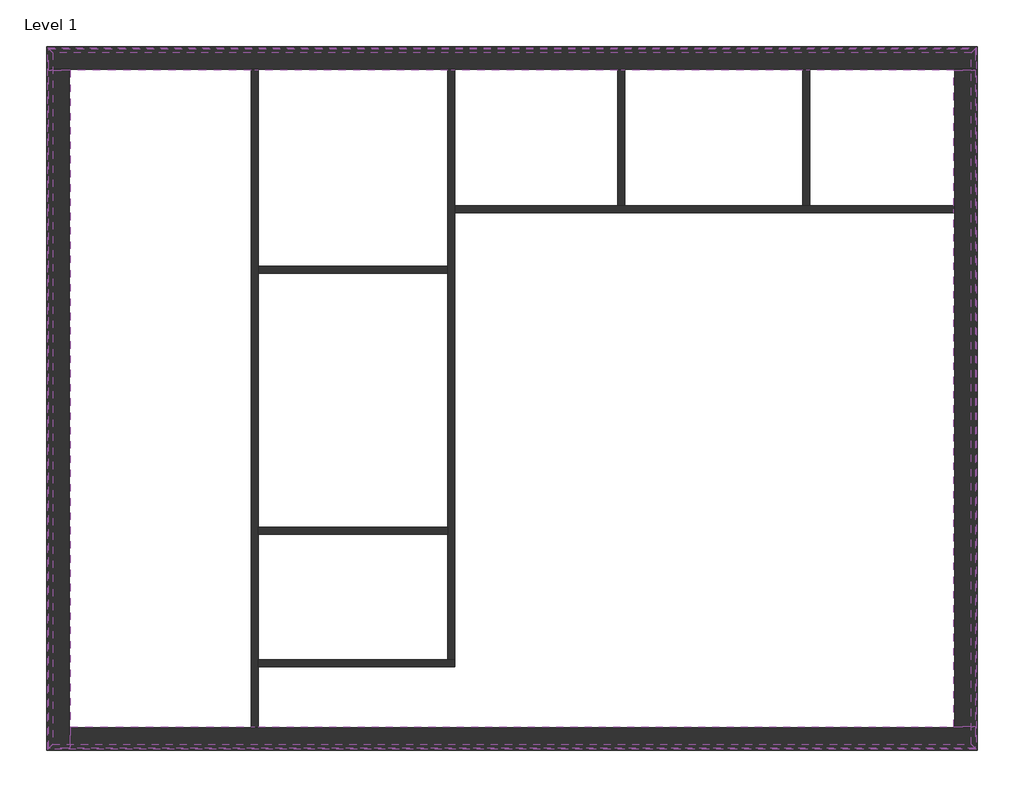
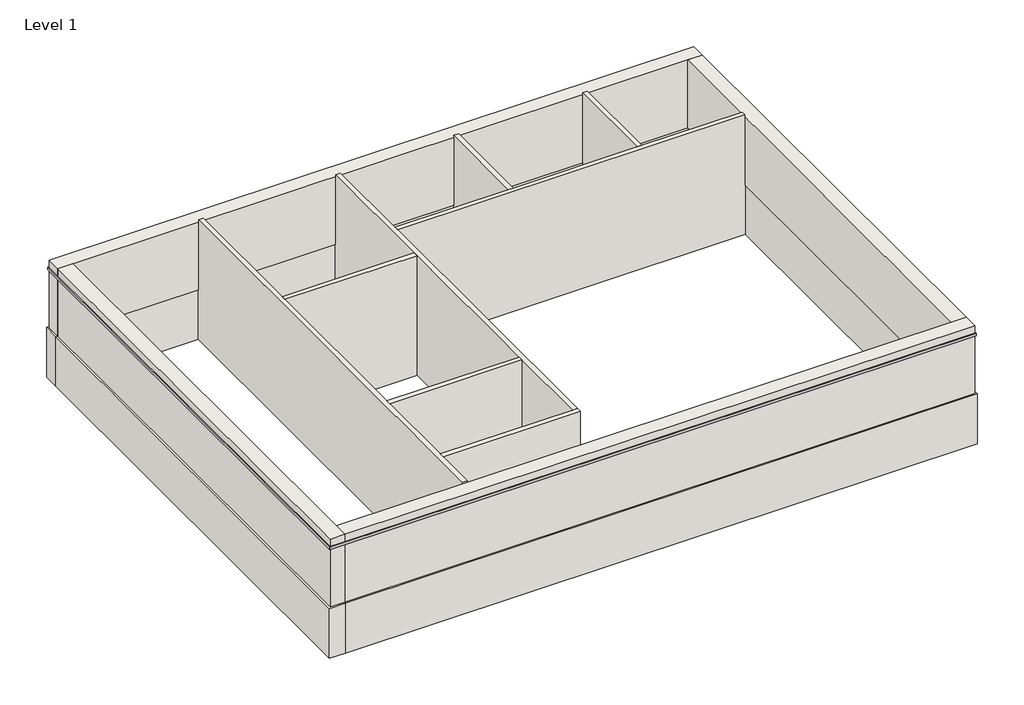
# One storey: 16 walls, 4 proxies.
"""IFC4 building model written with IfcOpenShell, lengths in millimetres."""

from ifc_helpers import new_model, si_unit, frame, origin, origin_with_axes, place, context, project, spatial, polyline, outline, extrude, faceted_brep, element, save

model = new_model("IFC4")

# Units and contexts
model_context = context("Model", 3, world=origin())
ifc_project = project(units=[si_unit("LENGTHUNIT", "METRE", prefix="MILLI")], contexts=[model_context])

# Site, building, storey
site = spatial("IfcSite", under=ifc_project)
building = spatial("IfcBuilding", under=site)
storey = spatial("IfcBuildingStorey", under=building, Name="Level 1", Elevation=0.0)

# Proxies
placement = place(None, origin())
element("IfcBuildingElementProxy", 1, Name="Reveals", at=placement, inside=storey, context=model_context, shape_type="SweptSolid", body=[
    extrude(outline(polyline([(-17378.8100037, 5434.2363466), (-17481.3100037, 5536.7363466), (1223.6899963, 5536.7363466), (1121.1899963, 5434.2363466), (-17378.8100037, 5434.2363466)])), frame((0.0, 0.0, 3300.0), z_axis=(0.0, 0.0, 1.0), x_axis=(1.0, 0.0, 0.0)), (0.0, 0.0, 1.0), 75.0),
])
element("IfcBuildingElementProxy", 2, Name="Reveals", at=placement, inside=storey, context=model_context, shape_type="SweptSolid", body=[
    extrude(outline(polyline([(-17378.8100037, -8493.7636534), (-17481.3100037, -8596.2636534), (-17481.3100037, 5536.7363466), (-17378.8100037, 5434.2363466), (-17378.8100037, -8493.7636534)])), frame((0.0, 0.0, 3300.0), z_axis=(0.0, 0.0, 1.0), x_axis=(1.0, 0.0, 0.0)), (0.0, 0.0, 1.0), 75.0),
])
element("IfcBuildingElementProxy", 3, Name="Reveals", at=placement, inside=storey, context=model_context, shape_type="SweptSolid", body=[
    extrude(outline(polyline([(1121.1899963, -8493.7636534), (1223.6899963, -8596.2636534), (-17481.3100037, -8596.2636534), (-17378.8100037, -8493.7636534), (1121.1899963, -8493.7636534)])), frame((0.0, 0.0, 3300.0), z_axis=(0.0, 0.0, 1.0), x_axis=(1.0, 0.0, 0.0)), (0.0, 0.0, 1.0), 75.0),
])
element("IfcBuildingElementProxy", 4, Name="Reveals", at=placement, inside=storey, context=model_context, shape_type="SweptSolid", body=[
    extrude(outline(polyline([(1121.1899963, 5434.2363466), (1223.6899963, 5536.7363466), (1223.6899963, -8596.2636534), (1121.1899963, -8493.7636534), (1121.1899963, 5434.2363466)])), frame((0.0, 0.0, 3300.0), z_axis=(0.0, 0.0, 1.0), x_axis=(1.0, 0.0, 0.0)), (0.0, 0.0, 1.0), 75.0),
])

# Walls
element("IfcWall", 5, ObjectType="Exterior - Block on Mtl. Stud", at=placement, inside=storey, context=model_context, shape_type="Brep", body=[
    faceted_brep([(-17502.8100037, 5098.2363466, 0.0), (-17042.8100037, 5098.2363466, 0.0), (-13380.0600037, 5098.2363466, 0.0), (-13241.5600037, 5098.2363466, 0.0), (-9418.0600037, 5098.2363466, 0.0), (-9279.5600037, 5098.2363466, 0.0), (-5996.0100037, 5098.2363466, 0.0), (-5857.5100037, 5098.2363466, 0.0), (-2269.1600037, 5098.2363466, 0.0), (-2130.6600037, 5098.2363466, 0.0), (785.1899963, 5098.2363466, 0.0), (1245.1899963, 5098.2363466, 0.0), (1245.1899963, 5098.2363466, 1524.0), (785.1899963, 5098.2363466, 1524.0), (-2130.6600037, 5098.2363466, 1524.0), (-2269.1600037, 5098.2363466, 1524.0), (-5857.5100037, 5098.2363466, 1524.0), (-5996.0100037, 5098.2363466, 1524.0), (-9279.5600037, 5098.2363466, 1524.0), (-9418.0600037, 5098.2363466, 1524.0), (-13241.5600037, 5098.2363466, 1524.0), (-13380.0600037, 5098.2363466, 1524.0), (-17042.8100037, 5098.2363466, 1524.0), (-17502.8100037, 5098.2363466, 1524.0), (-17502.8100037, 5558.2363466, 0.0), (-17502.8100037, 5558.2363466, 1524.0), (1245.1899963, 5558.2363466, 1524.0), (1245.1899963, 5558.2363466, 0.0)], [[[0, 1, 2, 3, 4, 5, 6, 7, 8, 9, 10, 11, 12, 13, 14, 15, 16, 17, 18, 19, 20, 21, 22, 23]], [[24, 25, 26, 27]], [[11, 10, 9, 8, 7, 6, 5, 4, 3, 2, 1, 0, 24, 27]], [[23, 22, 21, 20, 19, 18, 17, 16, 15, 14, 13, 12, 26, 25]], [[0, 23, 25, 24]], [[12, 11, 27, 26]]]),
])
element("IfcWall", 6, ObjectType="Exterior - Block on Mtl. Stud", at=placement, inside=storey, context=model_context, shape_type="Brep", body=[
    faceted_brep([(-17042.8100037, -8617.7636534, 0.0), (-17042.8100037, -8157.7636534, 0.0), (-17042.8100037, 5098.2363466, 0.0), (-17042.8100037, 5098.2363466, 1524.0), (-17042.8100037, -8157.7636534, 1524.0), (-17042.8100037, -8617.7636534, 1524.0), (-17502.8100037, -8617.7636534, 0.0), (-17502.8100037, -8617.7636534, 1524.0), (-17502.8100037, 5098.2363466, 1524.0), (-17502.8100037, 5098.2363466, 0.0)], [[[0, 1, 2, 3, 4, 5]], [[6, 7, 8, 9]], [[2, 1, 0, 6, 9]], [[5, 4, 3, 8, 7]], [[0, 5, 7, 6]], [[3, 2, 9, 8]]]),
])
element("IfcWall", 7, ObjectType="Exterior - Block on Mtl. Stud", at=placement, inside=storey, context=model_context, shape_type="Brep", body=[
    faceted_brep([(1245.1899963, -8157.7636534, 0.0), (785.1899963, -8157.7636534, 0.0), (-13241.5600037, -8157.7636534, 0.0), (-13380.0600037, -8157.7636534, 0.0), (-17042.8100037, -8157.7636534, 0.0), (-17042.8100037, -8157.7636534, 1524.0), (-13380.0600037, -8157.7636534, 1524.0), (-13241.5600037, -8157.7636534, 1524.0), (785.1899963, -8157.7636534, 1524.0), (1245.1899963, -8157.7636534, 1524.0), (1245.1899963, -8617.7636534, 0.0), (1245.1899963, -8617.7636534, 1524.0), (-17042.8100037, -8617.7636534, 1524.0), (-17042.8100037, -8617.7636534, 0.0)], [[[0, 1, 2, 3, 4, 5, 6, 7, 8, 9]], [[10, 11, 12, 13]], [[4, 3, 2, 1, 0, 10, 13]], [[9, 8, 7, 6, 5, 12, 11]], [[0, 9, 11, 10]], [[5, 4, 13, 12]]]),
])
element("IfcWall", 8, ObjectType="Exterior - Block on Mtl. Stud", at=placement, inside=storey, context=model_context, shape_type="Brep", body=[
    faceted_brep([(785.1899963, 5098.2363466, 0.0), (785.1899963, 2349.4863466, 0.0), (785.1899963, 2210.9863466, 0.0), (785.1899963, -8157.7636534, 0.0), (785.1899963, -8157.7636534, 1524.0), (785.1899963, 2210.9863466, 1524.0), (785.1899963, 2349.4863466, 1524.0), (785.1899963, 5098.2363466, 1524.0), (1245.1899963, 5098.2363466, 0.0), (1245.1899963, 5098.2363466, 1524.0), (1245.1899963, -8157.7636534, 1524.0), (1245.1899963, -8157.7636534, 0.0)], [[[0, 1, 2, 3, 4, 5, 6, 7]], [[8, 9, 10, 11]], [[3, 2, 1, 0, 8, 11]], [[7, 6, 5, 4, 10, 9]], [[0, 7, 9, 8]], [[4, 3, 11, 10]]]),
])
element("IfcWall", 9, ObjectType="Exterior - Render on Brick on Block", at=placement, inside=storey, context=model_context, shape_type="Brep", body=[
    faceted_brep([(-17453.8100037, 5080.2363466, 1524.0), (-17024.8100037, 5080.2363466, 1524.0), (-13380.0600037, 5080.2363466, 1524.0), (-13241.5600037, 5080.2363466, 1524.0), (-9418.0600037, 5080.2363466, 1524.0), (-9279.5600037, 5080.2363466, 1524.0), (-5996.0100037, 5080.2363466, 1524.0), (-5857.5100037, 5080.2363466, 1524.0), (-2269.1600037, 5080.2363466, 1524.0), (-2130.6600037, 5080.2363466, 1524.0), (767.1899963, 5080.2363466, 1524.0), (1196.1899963, 5080.2363466, 1524.0), (1196.1899963, 5080.2363466, 3300.0), (1121.1899963, 5080.2363466, 3300.0), (1121.1899963, 5080.2363466, 3375.0), (1196.1899963, 5080.2363466, 3375.0), (1196.1899963, 5080.2363466, 3600.0), (767.1899963, 5080.2363466, 3600.0), (-17024.8100037, 5080.2363466, 3600.0), (-17453.8100037, 5080.2363466, 3600.0), (-17453.8100037, 5080.2363466, 3375.0), (-17378.8100037, 5080.2363466, 3375.0), (-17378.8100037, 5080.2363466, 3300.0), (-17453.8100037, 5080.2363466, 3300.0), (-17453.8100037, 5509.2363466, 3600.0), (1196.1899963, 5509.2363466, 3600.0), (1196.1899963, 5509.2363466, 3375.0), (-17453.8100037, 5509.2363466, 3375.0), (1196.1899963, 5509.2363466, 1524.0), (-17453.8100037, 5509.2363466, 1524.0), (-17453.8100037, 5509.2363466, 3300.0), (1196.1899963, 5509.2363466, 3300.0), (-17453.8100037, 5484.2363466, 1524.0), (1196.1899963, 5484.2363466, 1524.0), (-17378.8100037, 5434.2363466, 3375.0), (1121.1899963, 5434.2363466, 3375.0), (1121.1899963, 5434.2363466, 3300.0), (-17378.8100037, 5434.2363466, 3300.0)], [[[0, 1, 2, 3, 4, 5, 6, 7, 8, 9, 10, 11, 12, 13, 14, 15, 16, 17, 18, 19, 20, 21, 22, 23]], [[24, 25, 26, 27]], [[28, 29, 30, 31]], [[19, 18, 17, 16, 25, 24]], [[11, 10, 9, 8, 7, 6, 5, 4, 3, 2, 1, 0, 32, 33]], [[34, 35, 36, 37]], [[19, 24, 27, 20]], [[32, 0, 23, 30, 29]], [[25, 16, 15, 26]], [[11, 33, 28, 31, 12]], [[29, 28, 33, 32]], [[35, 34, 21, 20, 27, 26, 15, 14]], [[37, 36, 13, 12, 31, 30, 23, 22]], [[34, 37, 22, 21]], [[36, 35, 14, 13]]]),
])
element("IfcWall", 10, ObjectType="Exterior - Render on Brick on Block", at=placement, inside=storey, context=model_context, shape_type="Brep", body=[
    faceted_brep([(-17024.8100037, -8568.7636534, 1524.0), (-17024.8100037, -8139.7636534, 1524.0), (-17024.8100037, 5080.2363466, 1524.0), (-17024.8100037, 5080.2363466, 3600.0), (-17024.8100037, -8139.7636534, 3600.0), (-17024.8100037, -8568.7636534, 3600.0), (-17024.8100037, -8568.7636534, 3375.0), (-17024.8100037, -8493.7636534, 3375.0), (-17024.8100037, -8493.7636534, 3300.0), (-17024.8100037, -8568.7636534, 3300.0), (-17453.8100037, -8568.7636534, 3600.0), (-17453.8100037, 5080.2363466, 3600.0), (-17453.8100037, 5080.2363466, 3375.0), (-17453.8100037, -8568.7636534, 3375.0), (-17453.8100037, 5080.2363466, 1524.0), (-17453.8100037, -8568.7636534, 1524.0), (-17453.8100037, -8568.7636534, 3300.0), (-17453.8100037, 5080.2363466, 3300.0), (-17428.8100037, -8568.7636534, 1524.0), (-17428.8100037, 5080.2363466, 1524.0), (-17378.8100037, -8493.7636534, 3300.0), (-17378.8100037, -8493.7636534, 3375.0), (-17378.8100037, 5080.2363466, 3375.0), (-17378.8100037, 5080.2363466, 3300.0)], [[[0, 1, 2, 3, 4, 5, 6, 7, 8, 9]], [[10, 11, 12, 13]], [[14, 15, 16, 17]], [[5, 4, 3, 11, 10]], [[2, 1, 0, 18, 19]], [[20, 21, 22, 23]], [[5, 10, 13, 6]], [[18, 0, 9, 16, 15]], [[3, 2, 19, 14, 17, 23, 22, 12, 11]], [[15, 14, 19, 18]], [[22, 21, 7, 6, 13, 12]], [[20, 23, 17, 16, 9, 8]], [[21, 20, 8, 7]]]),
])
element("IfcWall", 11, ObjectType="Exterior - Render on Brick on Block", at=placement, inside=storey, context=model_context, shape_type="Brep", body=[
    faceted_brep([(1196.1899963, -8139.7636534, 1524.0), (767.1899963, -8139.7636534, 1524.0), (-13241.5600037, -8139.7636534, 1524.0), (-13380.0600037, -8139.7636534, 1524.0), (-17024.8100037, -8139.7636534, 1524.0), (-17024.8100037, -8139.7636534, 3600.0), (767.1899963, -8139.7636534, 3600.0), (1196.1899963, -8139.7636534, 3600.0), (1196.1899963, -8139.7636534, 3375.0), (1121.1899963, -8139.7636534, 3375.0), (1121.1899963, -8139.7636534, 3300.0), (1196.1899963, -8139.7636534, 3300.0), (1196.1899963, -8568.7636534, 3600.0), (-17024.8100037, -8568.7636534, 3600.0), (-17024.8100037, -8568.7636534, 3375.0), (1196.1899963, -8568.7636534, 3375.0), (-17024.8100037, -8568.7636534, 1524.0), (1196.1899963, -8568.7636534, 1524.0), (1196.1899963, -8568.7636534, 3300.0), (-17024.8100037, -8568.7636534, 3300.0), (1196.1899963, -8543.7636534, 1524.0), (-17024.8100037, -8543.7636534, 1524.0), (1121.1899963, -8493.7636534, 3300.0), (1121.1899963, -8493.7636534, 3375.0), (-17024.8100037, -8493.7636534, 3375.0), (-17024.8100037, -8493.7636534, 3300.0)], [[[0, 1, 2, 3, 4, 5, 6, 7, 8, 9, 10, 11]], [[12, 13, 14, 15]], [[16, 17, 18, 19]], [[7, 6, 5, 13, 12]], [[4, 3, 2, 1, 0, 20, 21]], [[22, 23, 24, 25]], [[7, 12, 15, 8]], [[20, 0, 11, 18, 17]], [[5, 4, 21, 16, 19, 25, 24, 14, 13]], [[17, 16, 21, 20]], [[24, 23, 9, 8, 15, 14]], [[22, 25, 19, 18, 11, 10]], [[23, 22, 10, 9]]]),
])
element("IfcWall", 12, ObjectType="Exterior - Render on Brick on Block", at=placement, inside=storey, context=model_context, shape_type="Brep", body=[
    faceted_brep([(767.1899963, 5080.2363466, 1524.0), (767.1899963, 2349.4863466, 1524.0), (767.1899963, 2210.9863466, 1524.0), (767.1899963, -8139.7636534, 1524.0), (767.1899963, -8139.7636534, 3600.0), (767.1899963, 5080.2363466, 3600.0), (1196.1899963, 5080.2363466, 3600.0), (1196.1899963, -8139.7636534, 3600.0), (1196.1899963, -8139.7636534, 3375.0), (1196.1899963, 5080.2363466, 3375.0), (1196.1899963, -8139.7636534, 1524.0), (1196.1899963, 5080.2363466, 1524.0), (1196.1899963, 5080.2363466, 3300.0), (1196.1899963, -8139.7636534, 3300.0), (1171.1899963, 5080.2363466, 1524.0), (1171.1899963, -8139.7636534, 1524.0), (1121.1899963, -8139.7636534, 3300.0), (1121.1899963, 5080.2363466, 3300.0), (1121.1899963, 5080.2363466, 3375.0), (1121.1899963, -8139.7636534, 3375.0)], [[[0, 1, 2, 3, 4, 5]], [[6, 7, 8, 9]], [[10, 11, 12, 13]], [[5, 4, 7, 6]], [[3, 2, 1, 0, 14, 15]], [[16, 17, 18, 19]], [[0, 5, 6, 9, 18, 17, 12, 11, 14]], [[4, 3, 15, 10, 13, 16, 19, 8, 7]], [[11, 10, 15, 14]], [[19, 18, 9, 8]], [[17, 16, 13, 12]]]),
])
element("IfcWall", 13, ObjectType="Interior - 138mm Partition (1-hr)", at=placement, inside=storey, context=model_context, shape_type="Brep", body=[
    faceted_brep([(-13380.0600037, 5098.2363466, 0.0), (-13380.0600037, -8157.7636534, 0.0), (-13380.0600037, -8157.7636534, 1524.0), (-13380.0600037, -8139.7636534, 1524.0), (-13380.0600037, -8139.7636534, 3658.0), (-13380.0600037, 5080.2363466, 3658.0), (-13380.0600037, 5080.2363466, 1524.0), (-13380.0600037, 5098.2363466, 1524.0), (-13241.5600037, 5098.2363466, 0.0), (-13241.5600037, 5098.2363466, 1524.0), (-13241.5600037, 5080.2363466, 1524.0), (-13241.5600037, 5080.2363466, 3658.0), (-13241.5600037, 1130.2863466, 3658.0), (-13241.5600037, 991.7863466, 3658.0), (-13241.5600037, -4120.5636534, 3658.0), (-13241.5600037, -4259.0636534, 3658.0), (-13241.5600037, -6794.5136534, 3658.0), (-13241.5600037, -6933.0136534, 3658.0), (-13241.5600037, -8139.7636534, 3658.0), (-13241.5600037, -8139.7636534, 1524.0), (-13241.5600037, -8157.7636534, 1524.0), (-13241.5600037, -8157.7636534, 0.0), (-13241.5600037, -6933.0136534, 0.0), (-13241.5600037, -6794.5136534, 0.0), (-13241.5600037, -4259.0636534, 0.0), (-13241.5600037, -4120.5636534, 0.0), (-13241.5600037, 991.7863466, 0.0), (-13241.5600037, 1130.2863466, 0.0)], [[[0, 1, 2, 3, 4, 5, 6, 7]], [[8, 9, 10, 11, 12, 13, 14, 15, 16, 17, 18, 19, 20, 21, 22, 23, 24, 25, 26, 27]], [[1, 0, 8, 27, 26, 25, 24, 23, 22, 21]], [[5, 4, 18, 17, 16, 15, 14, 13, 12, 11]], [[6, 10, 9, 7]], [[0, 7, 9, 8]], [[6, 5, 11, 10]], [[19, 3, 2, 20]], [[2, 1, 21, 20]], [[4, 3, 19, 18]]]),
])
element("IfcWall", 14, ObjectType="Interior - 138mm Partition (1-hr)", at=placement, inside=storey, context=model_context, shape_type="Brep", body=[
    faceted_brep([(-13241.5600037, -6933.0136534, 0.0), (-9279.5600037, -6933.0136534, 0.0), (-9279.5600037, -6933.0136534, 3658.0), (-13241.5600037, -6933.0136534, 3658.0), (-13241.5600037, -6794.5136534, 0.0), (-13241.5600037, -6794.5136534, 3658.0), (-9418.0600037, -6794.5136534, 3658.0), (-9279.5600037, -6794.5136534, 3658.0), (-9279.5600037, -6794.5136534, 0.0), (-9418.0600037, -6794.5136534, 0.0)], [[[0, 1, 2, 3]], [[4, 5, 6, 7, 8, 9]], [[1, 0, 4, 9, 8]], [[3, 2, 7, 6, 5]], [[0, 3, 5, 4]], [[2, 1, 8, 7]]]),
])
element("IfcWall", 15, ObjectType="Interior - 138mm Partition (1-hr)", at=placement, inside=storey, context=model_context, shape_type="Brep", body=[
    faceted_brep([(-9279.5600037, -6794.5136534, 0.0), (-9279.5600037, 2210.9863466, 0.0), (-9279.5600037, 2349.4863466, 0.0), (-9279.5600037, 5098.2363466, 0.0), (-9279.5600037, 5098.2363466, 1524.0), (-9279.5600037, 5080.2363466, 1524.0), (-9279.5600037, 5080.2363466, 3658.0), (-9279.5600037, 2349.4863466, 3658.0), (-9279.5600037, 2210.9863466, 3658.0), (-9279.5600037, -6794.5136534, 3658.0), (-9418.0600037, -6794.5136534, 0.0), (-9418.0600037, -6794.5136534, 3658.0), (-9418.0600037, -4259.0636534, 3658.0), (-9418.0600037, -4120.5636534, 3658.0), (-9418.0600037, 991.7863466, 3658.0), (-9418.0600037, 1130.2863466, 3658.0), (-9418.0600037, 5080.2363466, 3658.0), (-9418.0600037, 5080.2363466, 1524.0), (-9418.0600037, 5098.2363466, 1524.0), (-9418.0600037, 5098.2363466, 0.0), (-9418.0600037, 1130.2863466, 0.0), (-9418.0600037, 991.7863466, 0.0), (-9418.0600037, -4120.5636534, 0.0), (-9418.0600037, -4259.0636534, 0.0)], [[[0, 1, 2, 3, 4, 5, 6, 7, 8, 9]], [[10, 11, 12, 13, 14, 15, 16, 17, 18, 19, 20, 21, 22, 23]], [[3, 2, 1, 0, 10, 23, 22, 21, 20, 19]], [[9, 8, 7, 6, 16, 15, 14, 13, 12, 11]], [[0, 9, 11, 10]], [[17, 5, 4, 18]], [[4, 3, 19, 18]], [[6, 5, 17, 16]]]),
])
element("IfcWall", 16, ObjectType="Interior - 138mm Partition (1-hr)", at=placement, inside=storey, context=model_context, shape_type="Brep", body=[
    faceted_brep([(-9279.5600037, 2210.9863466, 0.0), (785.1899963, 2210.9863466, 0.0), (785.1899963, 2210.9863466, 1524.0), (767.1899963, 2210.9863466, 1524.0), (767.1899963, 2210.9863466, 3658.0), (-9279.5600037, 2210.9863466, 3658.0), (-9279.5600037, 2349.4863466, 0.0), (-9279.5600037, 2349.4863466, 3658.0), (-5996.0100037, 2349.4863466, 3658.0), (-5857.5100037, 2349.4863466, 3658.0), (-2269.1600037, 2349.4863466, 3658.0), (-2130.6600037, 2349.4863466, 3658.0), (767.1899963, 2349.4863466, 3658.0), (767.1899963, 2349.4863466, 1524.0), (785.1899963, 2349.4863466, 1524.0), (785.1899963, 2349.4863466, 0.0), (-2130.6600037, 2349.4863466, 0.0), (-2269.1600037, 2349.4863466, 0.0), (-5857.5100037, 2349.4863466, 0.0), (-5996.0100037, 2349.4863466, 0.0)], [[[0, 1, 2, 3, 4, 5]], [[6, 7, 8, 9, 10, 11, 12, 13, 14, 15, 16, 17, 18, 19]], [[1, 0, 6, 19, 18, 17, 16, 15]], [[5, 4, 12, 11, 10, 9, 8, 7]], [[13, 3, 2, 14]], [[2, 1, 15, 14]], [[4, 3, 13, 12]], [[0, 5, 7, 6]]]),
])
element("IfcWall", 17, ObjectType="Interior - 138mm Partition (1-hr)", at=placement, inside=storey, context=model_context, shape_type="SweptSolid", body=[
    extrude(outline(polyline([(-9418.0600037, 991.7863466), (-13241.5600037, 991.7863466), (-13241.5600037, 1130.2863466), (-9418.0600037, 1130.2863466), (-9418.0600037, 991.7863466)])), origin_with_axes(), (0.0, 0.0, 1.0), 3658.0),
])
element("IfcWall", 18, ObjectType="Interior - 138mm Partition (1-hr)", at=placement, inside=storey, context=model_context, shape_type="SweptSolid", body=[
    extrude(outline(polyline([(-9418.0600037, -4259.0636534), (-13241.5600037, -4259.0636534), (-13241.5600037, -4120.5636534), (-9418.0600037, -4120.5636534), (-9418.0600037, -4259.0636534)])), origin_with_axes(), (0.0, 0.0, 1.0), 3658.0),
])
element("IfcWall", 19, ObjectType="Interior - 138mm Partition (1-hr)", at=placement, inside=storey, context=model_context, shape_type="SweptSolid", body=[
    extrude(outline(polyline([(5098.2363466, 0.0), (2349.4863466, 0.0), (2349.4863466, 3658.0), (5080.2363466, 3658.0), (5080.2363466, 1524.0), (5098.2363466, 1524.0), (5098.2363466, 0.0)])), frame((-5996.0100037, 0.0, 0.0), z_axis=(1.0, 0.0, 0.0), x_axis=(0.0, 1.0, 0.0)), (0.0, 0.0, 1.0), 138.5),
])
element("IfcWall", 20, ObjectType="Interior - 138mm Partition (1-hr)", at=placement, inside=storey, context=model_context, shape_type="SweptSolid", body=[
    extrude(outline(polyline([(5098.2363466, 0.0), (2349.4863466, 0.0), (2349.4863466, 3658.0), (5080.2363466, 3658.0), (5080.2363466, 1524.0), (5098.2363466, 1524.0), (5098.2363466, 0.0)])), frame((-2269.1600037, 0.0, 0.0), z_axis=(1.0, 0.0, 0.0), x_axis=(0.0, 1.0, 0.0)), (0.0, 0.0, 1.0), 138.5),
])

save(model, "model.ifc")
